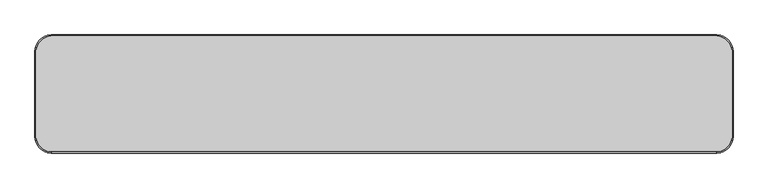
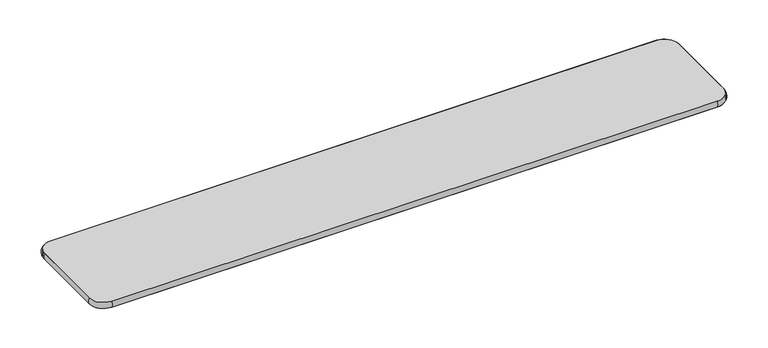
"""IFC4 building model written with IfcOpenShell, lengths in millimetres: furniture geometry, Banco para refeitório : Banco para refeitório 180x30cm cód 40471.6."""

from ifc_helpers import new_model, si_unit, point, frame, frame_2d, origin, place, context, project, spatial, polyline, circle_curve, ellipse_curve, trimmed, segment, composite_curve, outline, extrude, source, transform, mapped, element, save
from ifc_brep_helpers import plane_surface, cylinder_surface, revolved_surface, advanced_brep


def furniture_f09781c6(model_context):
    return source(origin(), model_context, "Body", "SolidModel", [
        advanced_brep(
        [(900.0, -110.0, 460.0), (860.0, -150.0, 460.0), (860.0, -150.0, 442.0), (900.0, -110.0, 442.0), (900.0, 110.0, 442.0), (900.0, 110.0, 460.0), (860.0, 150.0, 460.0), (860.0, 150.0, 442.0), (-860.0, 150.0, 442.0), (-860.0, 150.0, 460.0), (-900.0, 110.0, 460.0), (-900.0, 110.0, 442.0), (-900.0, -110.0, 442.0), (-900.0, -110.0, 460.0), (-860.0, -150.0, 460.0), (-860.0, -150.0, 442.0)],
        [
            (0, 1, circle_curve(frame((860.0, -110.0, 460.0), z_axis=(0.0, 0.0, -1.0), x_axis=(0.0, -1.0, 0.0)), 40.0)),
            (1, 2, circle_curve(frame((860.0, -136.6032084, 451.0), z_axis=(1.0, 0.0, 0.0), x_axis=(0.0, 1.0, 0.0)), 16.1392077)),
            (2, 3, circle_curve(frame((860.0, -110.0, 442.0), z_axis=(0.0, 0.0, 1.0), x_axis=(0.0, -1.0, 0.0)), 40.0)),
            (3, 0, circle_curve(frame((886.6032084, -110.0, 451.0), z_axis=(0.0, -1.0, 0.0), x_axis=(-1.0, 0.0, 0.0)), 16.1392077)),
            (2, 1),
            (0, 3),
            (3, 4),
            (4, 5, circle_curve(frame((886.6032084, 110.0, 451.0), z_axis=(0.0, -1.0, 0.0), x_axis=(-1.0, 0.0, 0.0)), 16.1392077)),
            (5, 0),
            (5, 4),
            (6, 5, circle_curve(frame((860.0, 110.0, 460.0), z_axis=(0.0, 0.0, -1.0), x_axis=(1.0, 0.0, 0.0)), 40.0)),
            (4, 7, circle_curve(frame((860.0, 110.0, 442.0), z_axis=(0.0, 0.0, 1.0), x_axis=(1.0, 0.0, 0.0)), 40.0)),
            (7, 6, circle_curve(frame((860.0, 136.6032084, 451.0), z_axis=(1.0, 0.0, 0.0), x_axis=(0.0, -1.0, 0.0)), 16.1392077)),
            (6, 7),
            (7, 8),
            (8, 9, circle_curve(frame((-860.0, 136.6032084, 451.0), z_axis=(1.0, 0.0, 0.0), x_axis=(0.0, -1.0, 0.0)), 16.1392077)),
            (9, 6),
            (9, 8),
            (10, 9, circle_curve(frame((-860.0, 110.0, 460.0), z_axis=(0.0, 0.0, -1.0), x_axis=(0.0, 1.0, 0.0)), 40.0)),
            (8, 11, circle_curve(frame((-860.0, 110.0, 442.0), z_axis=(0.0, 0.0, 1.0), x_axis=(0.0, 1.0, 0.0)), 40.0)),
            (11, 10, circle_curve(frame((-886.6032084, 110.0, 451.0), z_axis=(0.0, 1.0, 0.0), x_axis=(1.0, 0.0, 0.0)), 16.1392077)),
            (10, 11),
            (11, 12),
            (12, 13, circle_curve(frame((-886.6032084, -110.0, 451.0), z_axis=(0.0, 1.0, 0.0), x_axis=(1.0, 0.0, 0.0)), 16.1392077)),
            (13, 10),
            (13, 12),
            (14, 13, circle_curve(frame((-860.0, -110.0, 460.0), z_axis=(0.0, 0.0, -1.0), x_axis=(-1.0, 0.0, 0.0)), 40.0)),
            (12, 15, circle_curve(frame((-860.0, -110.0, 442.0), z_axis=(0.0, 0.0, 1.0), x_axis=(-1.0, 0.0, 0.0)), 40.0)),
            (15, 14, circle_curve(frame((-860.0, -136.6032084, 451.0), z_axis=(-1.0, 0.0, 0.0), x_axis=(0.0, 1.0, 0.0)), 16.1392077)),
            (14, 15),
            (15, 2),
            (1, 14),
        ],
        [
            revolved_surface(trimmed(ellipse_curve(frame((860.0, -136.6032084, 451.0), z_axis=(-1.0, 0.0, 0.0), x_axis=(0.0, 1.0, 0.0)), 16.1392077, 16.1392077), [point((860.0, -150.0, 442.0))], [point((860.0, -150.0, 460.0))], True, "CARTESIAN"), (860.0, -110.0, 460.0), (0.0, 0.0, 1.0)),
            revolved_surface(polyline([(860.0, -150.0, 460.0), (860.0, -150.0, 442.0)]), (860.0, -110.0, 460.0), (0.0, 0.0, 1.0)),
            cylinder_surface(frame((886.6032084, -110.0, 451.0), z_axis=(0.0, -1.0, 0.0), x_axis=(-1.0, 0.0, 0.0)), 16.1392077),
            plane_surface(frame((900.0, -110.0, 460.0), z_axis=(-1.0, 0.0, 0.0), x_axis=(0.0, 1.0, 0.0))),
            revolved_surface(trimmed(ellipse_curve(frame((886.6032084, 110.0, 451.0), z_axis=(0.0, -1.0, 0.0), x_axis=(-1.0, 0.0, 0.0)), 16.1392077, 16.1392077), [point((900.0, 110.0, 442.0))], [point((900.0, 110.0, 460.0))], True, "CARTESIAN"), (860.0, 110.0, 460.0), (0.0, 0.0, 1.0)),
            revolved_surface(polyline([(900.0, 110.0, 460.0), (900.0, 110.0, 442.0)]), (860.0, 110.0, 460.0), (0.0, 0.0, 1.0)),
            cylinder_surface(frame((860.0, 136.6032084, 451.0), z_axis=(1.0, 0.0, 0.0), x_axis=(0.0, -1.0, 0.0)), 16.1392077),
            plane_surface(frame((860.0, 150.0, 460.0), z_axis=(0.0, -1.0, 0.0), x_axis=(-1.0, 0.0, 0.0))),
            revolved_surface(trimmed(ellipse_curve(frame((-860.0, 136.6032084, 451.0), z_axis=(1.0, 0.0, 0.0), x_axis=(0.0, -1.0, 0.0)), 16.1392077, 16.1392077), [point((-860.0, 150.0, 442.0))], [point((-860.0, 150.0, 460.0))], True, "CARTESIAN"), (-860.0, 110.0, 460.0), (0.0, 0.0, 1.0)),
            revolved_surface(polyline([(-860.0, 150.0, 460.0), (-860.0, 150.0, 442.0)]), (-860.0, 110.0, 460.0), (0.0, 0.0, 1.0)),
            cylinder_surface(frame((-886.6032084, 110.0, 451.0), z_axis=(0.0, 1.0, 0.0), x_axis=(1.0, 0.0, 0.0)), 16.1392077),
            plane_surface(frame((-900.0, 110.0, 460.0), z_axis=(1.0, 0.0, 0.0), x_axis=(0.0, -1.0, 0.0))),
            revolved_surface(trimmed(ellipse_curve(frame((-886.6032084, -110.0, 451.0), z_axis=(0.0, 1.0, 0.0), x_axis=(1.0, 0.0, 0.0)), 16.1392077, 16.1392077), [point((-900.0, -110.0, 442.0))], [point((-900.0, -110.0, 460.0))], True, "CARTESIAN"), (-860.0, -110.0, 460.0), (0.0, 0.0, 1.0)),
            revolved_surface(polyline([(-900.0, -110.0, 460.0), (-900.0, -110.0, 442.0)]), (-860.0, -110.0, 460.0), (0.0, 0.0, 1.0)),
            cylinder_surface(frame((-860.0, -136.6032084, 451.0), z_axis=(-1.0, 0.0, 0.0), x_axis=(0.0, 1.0, 0.0)), 16.1392077),
            plane_surface(frame((-860.0, -150.0, 460.0), z_axis=(0.0, 1.0, 0.0), x_axis=(1.0, 0.0, 0.0))),
        ],
        [
            (0, [[1, 2, 3, 4]]),
            (1, [[-3, 5, -1, 6]]),
            (2, [[-4, 7, 8, 9]]),
            (3, [[-6, -9, 10, -7]]),
            (4, [[11, -8, 12, 13]]),
            (5, [[-12, -10, -11, 14]]),
            (6, [[-13, 15, 16, 17]]),
            (7, [[-14, -17, 18, -15]]),
            (8, [[19, -16, 20, 21]]),
            (9, [[-20, -18, -19, 22]]),
            (10, [[-21, 23, 24, 25]]),
            (11, [[-22, -25, 26, -23]]),
            (12, [[27, -24, 28, 29]]),
            (13, [[-28, -26, -27, 30]]),
            (14, [[-29, 31, -2, 32]]),
            (15, [[-30, -32, -5, -31]]),
        ],
    ),
        extrude(outline(composite_curve([segment(trimmed(circle_curve(frame_2d((860.0, 110.0)), 40.0), [point((860.0, 150.0))], [point((900.0, 110.0))], False, "CARTESIAN"), True, "CONTINUOUS"), segment(polyline([(900.0, 110.0), (900.0, -110.0)]), True, "CONTINUOUS"), segment(trimmed(circle_curve(frame_2d((860.0, -110.0)), 40.0), [point((900.0, -110.0))], [point((860.0, -150.0))], False, "CARTESIAN"), True, "CONTINUOUS"), segment(polyline([(860.0, -150.0), (-860.0, -150.0)]), True, "CONTINUOUS"), segment(trimmed(circle_curve(frame_2d((-860.0, -110.0)), 40.0), [point((-860.0, -150.0))], [point((-900.0, -110.0))], False, "CARTESIAN"), True, "CONTINUOUS"), segment(polyline([(-900.0, -110.0), (-900.0, 110.0)]), True, "CONTINUOUS"), segment(trimmed(circle_curve(frame_2d((-860.0, 110.0)), 40.0), [point((-900.0, 110.0))], [point((-860.0, 150.0))], False, "CARTESIAN"), True, "CONTINUOUS"), segment(polyline([(-860.0, 150.0), (860.0, 150.0)]), True, "CONTINUOUS")], self_intersect=False)), frame((0.0, 0.0, 442.0), z_axis=(0.0, 0.0, 1.0), x_axis=(1.0, 0.0, 0.0)), (0.0, 0.0, 1.0), 18.0),
    ])


if __name__ == "__main__":
    model = new_model("IFC4")
    model_context = context("Model", 3, world=origin())
    ifc_project = project(units=[si_unit("LENGTHUNIT", "METRE", prefix="MILLI")], contexts=[model_context])
    site = spatial("IfcSite", under=ifc_project)
    building = spatial("IfcBuilding", under=site)
    placement = place(None, origin())
    furniture_shape = furniture_f09781c6(model_context)
    element("IfcFurniture", 1, ObjectType="Banco para refeitório : Banco para refeitório 180x30cm cód 40471.6", at=placement, inside=building, context=model_context, shape_type="MappedRepresentation", body=[
        mapped(furniture_shape, transform((0.0, 0.0, 0.0), x_axis=(1.0, 0.0, 0.0), y_axis=(0.0, 1.0, 0.0), z_axis=(0.0, 0.0, 1.0))),
    ])
    save(model, "model.ifc")
